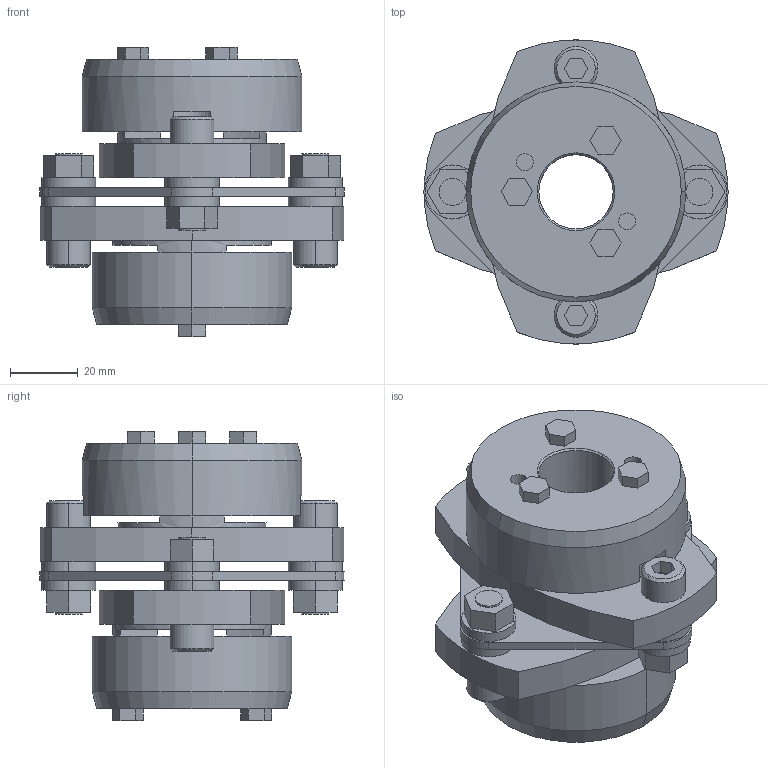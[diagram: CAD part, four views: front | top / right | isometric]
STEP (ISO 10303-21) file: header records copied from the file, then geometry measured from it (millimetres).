
FILE_DESCRIPTION((''),'2;1');
FILE_NAME('LCS-90T7-22×24.stp','2015-11-01T20:27:11',(''),(''),'AutoCAD STEP 2000i','AutoCAD 2000i',', , ');
FILE_SCHEMA(('CONFIG_CONTROL_DESIGN'));
Length unit declared in the file: millimetre
Products named in the file (9): LCS-90T7-20×25; 忣兜1; LC90T7-T020; LC90T7-T025; LC90T7-T019-1; LC90T7-T019; LC90-B019-1; LC90-B019; LCS90-ITA
Assembly tree (8 placements, depth 2):
  LCS-90T7-20×25
    忣兜1
    LC90T7-T020
    LC90T7-T025
    LC90T7-T019-1
    LC90T7-T019
    LC90-B019-1
    LC90-B019
    LCS90-ITA
Bounding box: 90 x 89.94 x 85.5 mm (x, y, z)
Volume: 212943.4 mm3; surface area: 53659.3 mm2
Topology: 1 solids, 1 shells, 229 faces, 562 edges, 368 vertices
Faces by surface type: plane 127, cylinder 82, cone 20
Entity records: 7023 total; most frequent: DIRECTION 1242, CARTESIAN_POINT 1168, ORIENTED_EDGE 1124, EDGE_CURVE 562, AXIS2_PLACEMENT_3D 442, VERTEX_POINT 368, VECTOR 358, LINE 358
